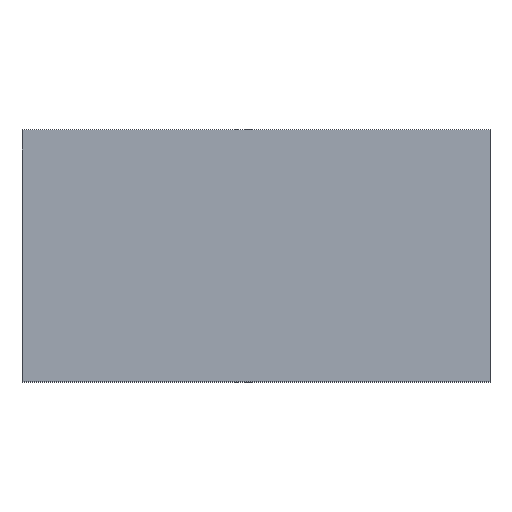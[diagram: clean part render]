
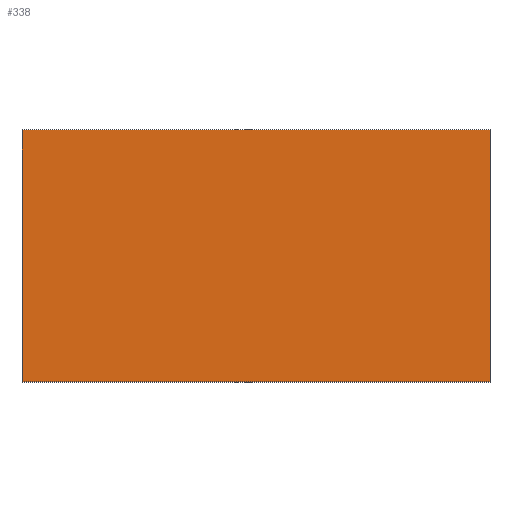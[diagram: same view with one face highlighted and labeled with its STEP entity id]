
A CAD part, top view. The second image highlights one B-rep face of the part: STEP entity #338.
In plain terms, the highlighted planar face has unit normal (0, 0, 1).
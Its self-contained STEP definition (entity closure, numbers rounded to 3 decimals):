
#24 = VERTEX_POINT('',#25);
#25 = CARTESIAN_POINT('',(385.,-14.,-25.));
#32 = PLANE('',#33);
#33 = AXIS2_PLACEMENT_3D('',#34,#35,#36);
#34 = CARTESIAN_POINT('',(385.,-14.,-35.));
#35 = DIRECTION('',(1.,0.,0.));
#36 = DIRECTION('',(0.,0.,1.));
#44 = PLANE('',#45);
#45 = AXIS2_PLACEMENT_3D('',#46,#47,#48);
#46 = CARTESIAN_POINT('',(385.,-14.,-35.));
#47 = DIRECTION('',(0.,1.,0.));
#48 = DIRECTION('',(0.,0.,1.));
#85 = VERTEX_POINT('',#86);
#86 = CARTESIAN_POINT('',(385.,14.,-25.));
#100 = PLANE('',#101);
#101 = AXIS2_PLACEMENT_3D('',#102,#103,#104);
#102 = CARTESIAN_POINT('',(385.,14.,-35.));
#103 = DIRECTION('',(0.,1.,0.));
#104 = DIRECTION('',(0.,0.,1.));
#112 = EDGE_CURVE('',#24,#85,#113,.T.);
#113 = SURFACE_CURVE('',#114,(#118,#125),.PCURVE_S1.);
#114 = LINE('',#115,#116);
#115 = CARTESIAN_POINT('',(385.,-14.,-25.));
#116 = VECTOR('',#117,1.);
#117 = DIRECTION('',(0.,1.,0.));
#118 = PCURVE('',#32,#119);
#119 = DEFINITIONAL_REPRESENTATION('',(#120),#124);
#120 = LINE('',#121,#122);
#121 = CARTESIAN_POINT('',(10.,0.));
#122 = VECTOR('',#123,1.);
#123 = DIRECTION('',(0.,-1.));
#124 = ( GEOMETRIC_REPRESENTATION_CONTEXT(2) 
PARAMETRIC_REPRESENTATION_CONTEXT() REPRESENTATION_CONTEXT('2D SPACE',''
  ) );
#125 = PCURVE('',#126,#131);
#126 = PLANE('',#127);
#127 = AXIS2_PLACEMENT_3D('',#128,#129,#130);
#128 = CARTESIAN_POINT('',(385.,-14.,-25.));
#129 = DIRECTION('',(0.,0.,1.));
#130 = DIRECTION('',(1.,0.,0.));
#131 = DEFINITIONAL_REPRESENTATION('',(#132),#136);
#132 = LINE('',#133,#134);
#133 = CARTESIAN_POINT('',(0.,0.));
#134 = VECTOR('',#135,1.);
#135 = DIRECTION('',(0.,1.));
#136 = ( GEOMETRIC_REPRESENTATION_CONTEXT(2) 
PARAMETRIC_REPRESENTATION_CONTEXT() REPRESENTATION_CONTEXT('2D SPACE',''
  ) );
#144 = VERTEX_POINT('',#145);
#145 = CARTESIAN_POINT('',(437.,-14.,-25.));
#152 = PLANE('',#153);
#153 = AXIS2_PLACEMENT_3D('',#154,#155,#156);
#154 = CARTESIAN_POINT('',(437.,-14.,-35.));
#155 = DIRECTION('',(1.,0.,0.));
#156 = DIRECTION('',(0.,0.,1.));
#195 = VERTEX_POINT('',#196);
#196 = CARTESIAN_POINT('',(437.,14.,-25.));
#217 = EDGE_CURVE('',#144,#195,#218,.T.);
#218 = SURFACE_CURVE('',#219,(#223,#230),.PCURVE_S1.);
#219 = LINE('',#220,#221);
#220 = CARTESIAN_POINT('',(437.,-14.,-25.));
#221 = VECTOR('',#222,1.);
#222 = DIRECTION('',(0.,1.,0.));
#223 = PCURVE('',#152,#224);
#224 = DEFINITIONAL_REPRESENTATION('',(#225),#229);
#225 = LINE('',#226,#227);
#226 = CARTESIAN_POINT('',(10.,0.));
#227 = VECTOR('',#228,1.);
#228 = DIRECTION('',(0.,-1.));
#229 = ( GEOMETRIC_REPRESENTATION_CONTEXT(2) 
PARAMETRIC_REPRESENTATION_CONTEXT() REPRESENTATION_CONTEXT('2D SPACE',''
  ) );
#230 = PCURVE('',#126,#231);
#231 = DEFINITIONAL_REPRESENTATION('',(#232),#236);
#232 = LINE('',#233,#234);
#233 = CARTESIAN_POINT('',(52.,0.));
#234 = VECTOR('',#235,1.);
#235 = DIRECTION('',(0.,1.));
#236 = ( GEOMETRIC_REPRESENTATION_CONTEXT(2) 
PARAMETRIC_REPRESENTATION_CONTEXT() REPRESENTATION_CONTEXT('2D SPACE',''
  ) );
#263 = EDGE_CURVE('',#24,#144,#264,.T.);
#264 = SURFACE_CURVE('',#265,(#269,#276),.PCURVE_S1.);
#265 = LINE('',#266,#267);
#266 = CARTESIAN_POINT('',(385.,-14.,-25.));
#267 = VECTOR('',#268,1.);
#268 = DIRECTION('',(1.,0.,0.));
#269 = PCURVE('',#44,#270);
#270 = DEFINITIONAL_REPRESENTATION('',(#271),#275);
#271 = LINE('',#272,#273);
#272 = CARTESIAN_POINT('',(10.,0.));
#273 = VECTOR('',#274,1.);
#274 = DIRECTION('',(0.,1.));
#275 = ( GEOMETRIC_REPRESENTATION_CONTEXT(2) 
PARAMETRIC_REPRESENTATION_CONTEXT() REPRESENTATION_CONTEXT('2D SPACE',''
  ) );
#276 = PCURVE('',#126,#277);
#277 = DEFINITIONAL_REPRESENTATION('',(#278),#282);
#278 = LINE('',#279,#280);
#279 = CARTESIAN_POINT('',(0.,0.));
#280 = VECTOR('',#281,1.);
#281 = DIRECTION('',(1.,0.));
#282 = ( GEOMETRIC_REPRESENTATION_CONTEXT(2) 
PARAMETRIC_REPRESENTATION_CONTEXT() REPRESENTATION_CONTEXT('2D SPACE',''
  ) );
#310 = EDGE_CURVE('',#85,#195,#311,.T.);
#311 = SURFACE_CURVE('',#312,(#316,#323),.PCURVE_S1.);
#312 = LINE('',#313,#314);
#313 = CARTESIAN_POINT('',(385.,14.,-25.));
#314 = VECTOR('',#315,1.);
#315 = DIRECTION('',(1.,0.,0.));
#316 = PCURVE('',#100,#317);
#317 = DEFINITIONAL_REPRESENTATION('',(#318),#322);
#318 = LINE('',#319,#320);
#319 = CARTESIAN_POINT('',(10.,0.));
#320 = VECTOR('',#321,1.);
#321 = DIRECTION('',(0.,1.));
#322 = ( GEOMETRIC_REPRESENTATION_CONTEXT(2) 
PARAMETRIC_REPRESENTATION_CONTEXT() REPRESENTATION_CONTEXT('2D SPACE',''
  ) );
#323 = PCURVE('',#126,#324);
#324 = DEFINITIONAL_REPRESENTATION('',(#325),#329);
#325 = LINE('',#326,#327);
#326 = CARTESIAN_POINT('',(0.,28.));
#327 = VECTOR('',#328,1.);
#328 = DIRECTION('',(1.,0.));
#329 = ( GEOMETRIC_REPRESENTATION_CONTEXT(2) 
PARAMETRIC_REPRESENTATION_CONTEXT() REPRESENTATION_CONTEXT('2D SPACE',''
  ) );
#338 = ADVANCED_FACE('',(#339),#126,.T.);
#339 = FACE_BOUND('',#340,.T.);
#340 = EDGE_LOOP('',(#341,#342,#343,#344));
#341 = ORIENTED_EDGE('',*,*,#112,.F.);
#342 = ORIENTED_EDGE('',*,*,#263,.T.);
#343 = ORIENTED_EDGE('',*,*,#217,.T.);
#344 = ORIENTED_EDGE('',*,*,#310,.F.);
